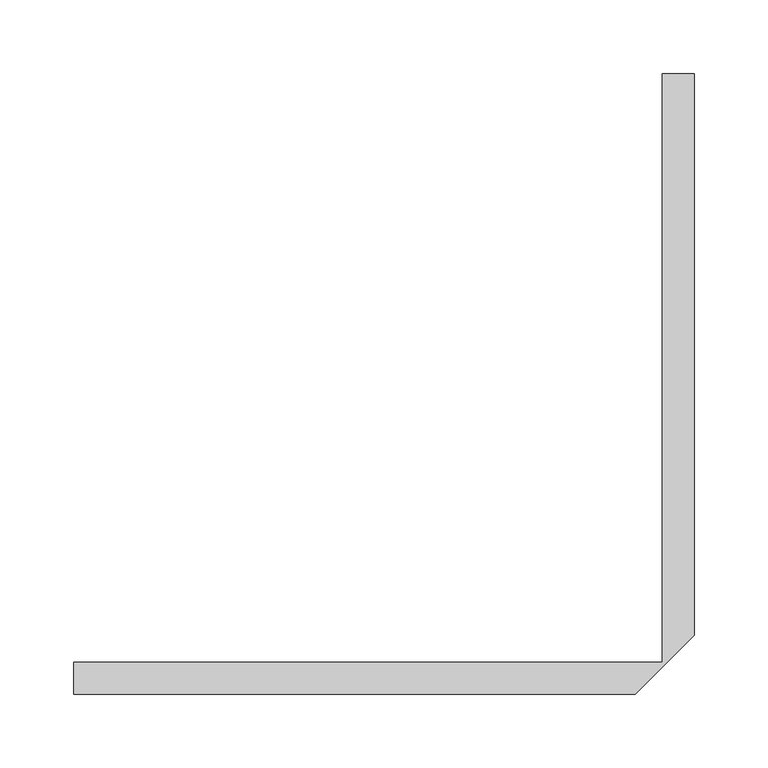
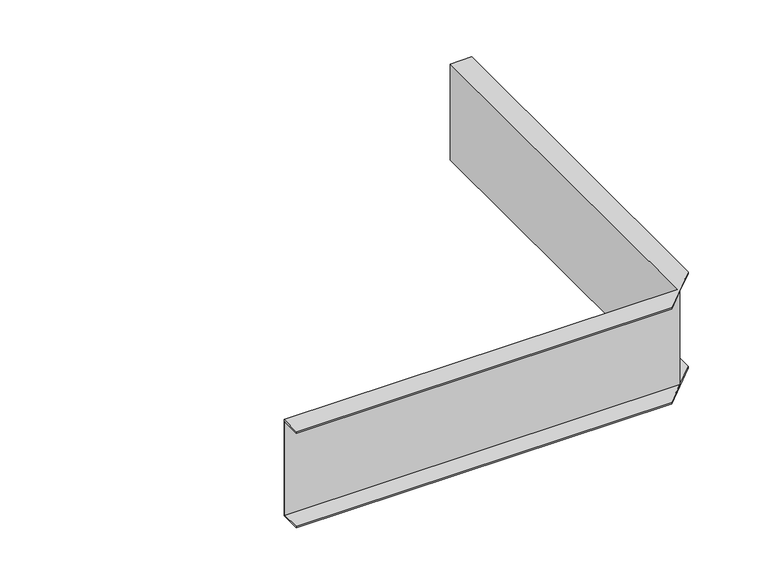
"""IFC4 building model written with IfcOpenShell, lengths in millimetres: cable carrier fitting geometry, BAKS_LDLS_CONN_Angle connector_LKSU : LKSUP_H100."""

from ifc_helpers import new_model, si_unit, origin, place, context, project, spatial, faceted_brep, source, transform, mapped, element, save


def cable_carrier_fitting_5ffc5da9(model_context):
    return source(origin(), model_context, "Body", "Brep", [
        faceted_brep([(-20.0, -20.0, 51.5), (20.0, 20.0, 51.5), (20.0, 400.0, 51.5), (-1.5, 400.0, 51.5), (-1.5, 1.5, 51.5), (-400.0, 1.5, 51.5), (-400.0, -20.0, 51.5), (-400.0, -20.0, 50.0), (-400.0, 0.0, 50.0), (0.0, 0.0, 50.0), (-20.0, -20.0, 50.0), (-400.0, 1.5, -51.5), (-400.0, -20.0, -51.5), (-400.0, -20.0, -50.0), (-400.0, 0.0, -50.0), (20.0, 20.0, 50.0), (20.0, 400.0, 50.0), (0.0, 400.0, 50.0), (0.0, 400.0, -50.0), (20.0, 400.0, -50.0), (20.0, 400.0, -51.5), (-1.5, 400.0, -51.5), (-1.5, 1.5, -51.5), (20.0, 20.0, -51.5), (-20.0, -20.0, -51.5), (0.0, 0.0, -50.0), (-20.0, -20.0, -50.0), (20.0, 20.0, -50.0)], [[[0, 1, 2, 3, 4, 5, 6]], [[7, 8, 9, 10]], [[7, 6, 5, 11, 12, 13, 14, 8]], [[9, 15, 1, 0, 10]], [[6, 7, 10, 0]], [[3, 2, 16, 17, 18, 19, 20, 21]], [[21, 22, 4, 3]], [[20, 23, 24, 12, 11, 22, 21]], [[25, 18, 17, 9]], [[22, 11, 5, 4]], [[8, 14, 25, 9]], [[26, 25, 14, 13]], [[13, 12, 24, 26]], [[26, 24, 23, 27, 25]], [[16, 15, 9, 17]], [[1, 15, 16, 2]], [[27, 19, 18, 25]], [[27, 23, 20, 19]]]),
    ])


if __name__ == "__main__":
    model = new_model("IFC4")
    model_context = context("Model", 3, world=origin())
    ifc_project = project(units=[si_unit("LENGTHUNIT", "METRE", prefix="MILLI")], contexts=[model_context])
    site = spatial("IfcSite", under=ifc_project)
    building = spatial("IfcBuilding", under=site)
    placement = place(None, origin())
    cable_carrier_fitting_shape = cable_carrier_fitting_5ffc5da9(model_context)
    element("IfcCableCarrierFitting", 1, ObjectType="BAKS_LDLS_CONN_Angle connector_LKSU : LKSUP_H100", at=placement, inside=building, context=model_context, shape_type="MappedRepresentation", body=[
        mapped(cable_carrier_fitting_shape, transform((0.0, 0.0, 0.0), x_axis=(1.0, 0.0, 0.0), y_axis=(0.0, 1.0, 0.0), z_axis=(0.0, 0.0, 1.0))),
    ])
    save(model, "model.ifc")
